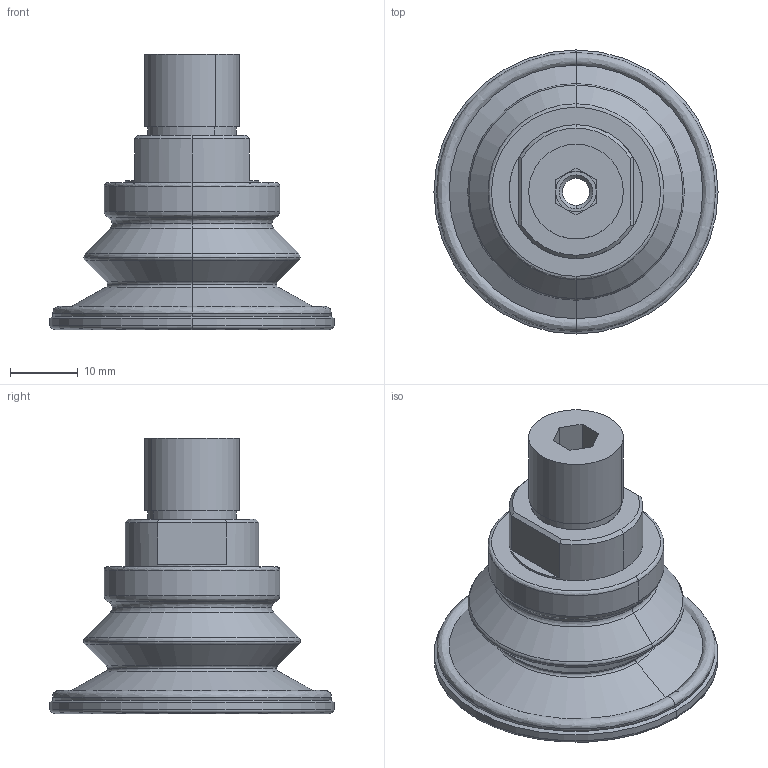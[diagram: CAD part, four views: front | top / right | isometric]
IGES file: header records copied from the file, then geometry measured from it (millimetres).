
Start section: 3D InterOp IGES (v. 2018 1.0.2), Spatial Corp. Copyright (c) 1999-2017.
Global section: file name: schmalz_10_01_06_01006_9ehjpvn2qijtbhbqj61365kse.igs; native system: Spatial Corp.; preprocessor: 3D InterOp ACIS/IGES; author: TraceParts; organization: TraceParts S.A.; date: 20181018.034712; units: millimetre
Bounding box: 42 x 42 x 40.77 mm (x, y, z)
Surface area: 7106.6 mm2 (no closed solid volume)
Topology: 0 solids, 0 shells, 100 faces, 424 edges, 424 vertices
Faces by surface type: revolution 72, extrusion 28
